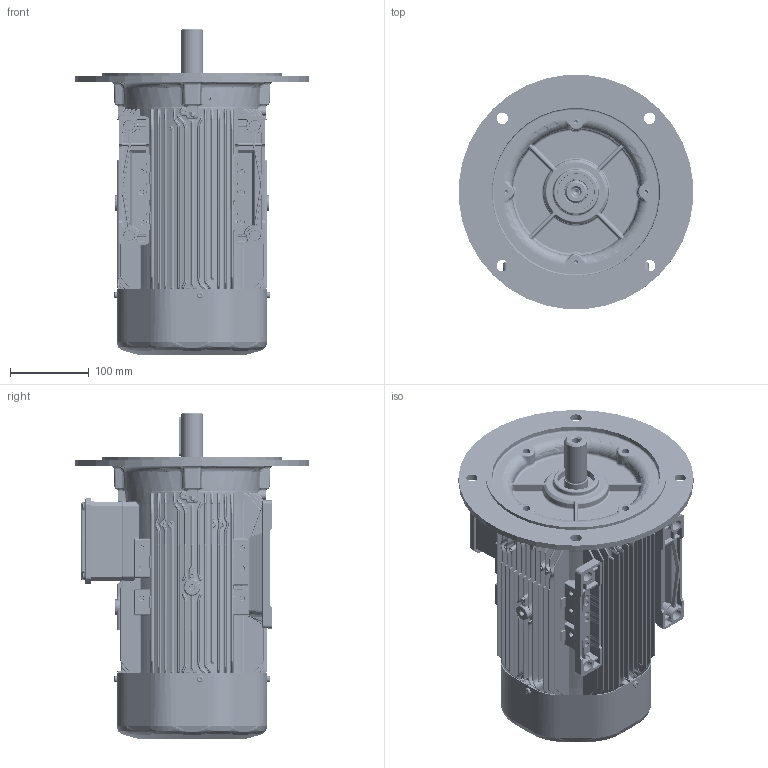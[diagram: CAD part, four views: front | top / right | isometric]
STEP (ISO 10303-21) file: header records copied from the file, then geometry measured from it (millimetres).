
FILE_DESCRIPTION(/* description */ (''),/* implementation_level */ '2;1');
FILE_NAME(/* name */ 'OUTLOOK VIEW QH100 PA B35 - BIGGER FF265 SPL.stp',/* time_stamp */ '2021-09-13T12:02:16+03:00',/* author */ (''),/* organization */ (''),/* preprocessor_version */ 'ST-DEVELOPER v16',/* originating_system */ 'SIEMENS PLM Software NX 11.0',/* authorisation */ '');
FILE_SCHEMA (('AUTOMOTIVE_DESIGN { 1 0 10303 214 3 1 1 1 }'));
Products named in the file (1): 26062CE45B9Cd50j
Bounding box: 297.86 x 297.86 x 415.31 mm (x, y, z)
Volume: 5547757.7 mm3; surface area: 2095905.1 mm2
Topology: 74 solids, 74 shells, 12113 faces, 29539 edges, 17187 vertices
Faces by surface type: cylinder 3862, bspline 3606, plane 2914, torus 710, cone 560, sphere 398, extrusion 63
Full cylindrical faces by diameter (mm): 3.242 x4, 3.3 x4, 4 x9, 4.722 x3, 5 x20, 5.5 x4, 8 x8, 8.5 x9, 10 x5, 10.5 x1, 14.5 x4, 18.7 x1, 23.38 x2, 23.9 x1, 24.4 x1, 24.8 x1, 25 x5, 25.2 x1, 27.4 x1, 28 x1, 28.6 x1, 29.4 x1, 30 x3, 31 x1, 31.6 x1, 34 x2, 34.35 x8, 40 x1, 43.95 x4, 44.6 x4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
Entity records: 483690 total; most frequent: CARTESIAN_POINT 171484, ORIENTED_EDGE 56520, DIRECTION 52050, EDGE_CURVE 28260, AXIS2_PLACEMENT_3D 21161, VERTEX_POINT 16978, EDGE_LOOP 13232, ADVANCED_FACE 12093
